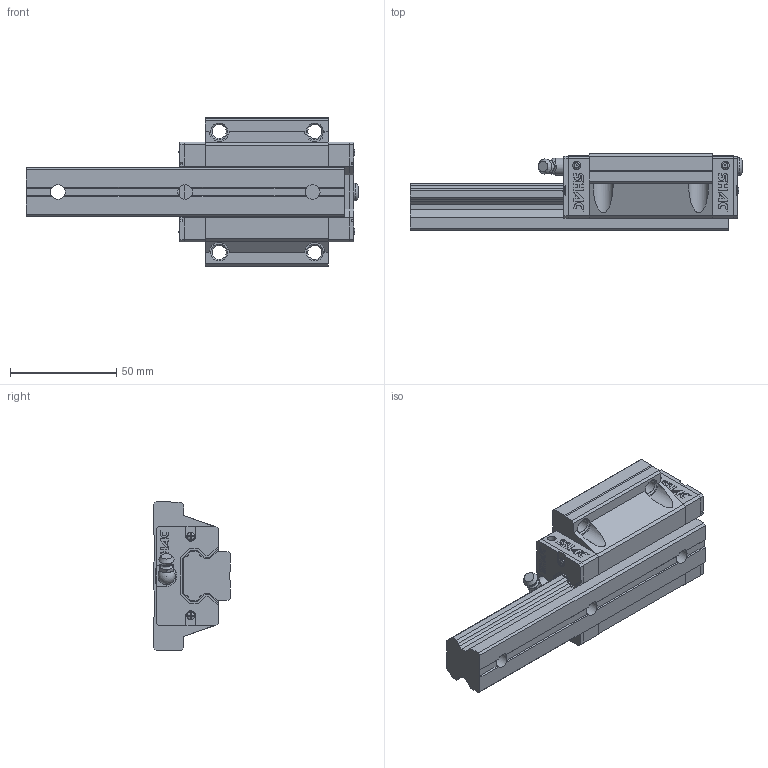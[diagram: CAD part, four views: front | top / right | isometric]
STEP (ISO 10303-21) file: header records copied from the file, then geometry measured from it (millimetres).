
FILE_DESCRIPTION( ( 'STEP AP214' ), '1' );
FILE_NAME( 'F:/品牌/SHAC 台湾鼎翰传动科技有限公司/3D滑块/GHW25CA1R150Z0C-15_15_1_1_.stp', '2025-04-21T22:46:29', ( 'License CC BY-ND 4.0' ), ( 'CADENAS' ), ' ', 'PARTsolutions', ' ' );
FILE_SCHEMA( ( 'AUTOMOTIVE_DESIGN { 1 0 10303 214 1 1 1 1 }' ) );
Length unit declared in the file: millimetre
Products named in the file (8): GHW25CA1R150Z0C-15/15(1_1); _GHR25R150C+RC-15/15(1)_RAIL; _GHW25CA_SLIDER; _GHW25CA_C; _GHW25CA_P; _GH25_SCREW; _GH25_BOLT; _GH25-_G
Assembly tree (12 placements, depth 2):
  GHW25CA1R150Z0C-15/15(1_1)
    _GHR25R150C+RC-15/15(1)_RAIL
    _GHW25CA_SLIDER
    _GHW25CA_C  x2
    _GHW25CA_P  x2
    _GH25_SCREW  x4
    _GH25_BOLT
    _GH25-_G
Bounding box: 156.4 x 36 x 70 mm (x, y, z)
Volume: 171938 mm3; surface area: 47506 mm2
Topology: 12 solids, 12 shells, 792 faces, 2133 edges, 1411 vertices
Faces by surface type: plane 641, cylinder 111, cone 24, torus 10, sphere 5, bspline 1
Full cylindrical faces by diameter (mm): 0.526 x4, 3 x4, 3.725 x4, 3.9 x6, 4.5 x1, 6 x2, 6.5 x2, 6.647 x4, 7 x3, 8 x1, 8.2 x1, 11 x3
Entity records: 18869 total; most frequent: CARTESIAN_POINT 2780, ORIENTED_EDGE 2492, DIRECTION 2412, EDGE_CURVE 1246, LINE 1010, VECTOR 1010, VERTEX_POINT 849, AXIS2_PLACEMENT_3D 701
